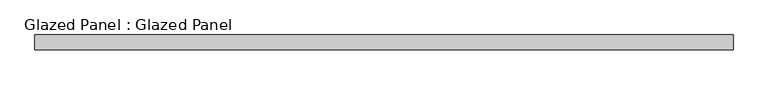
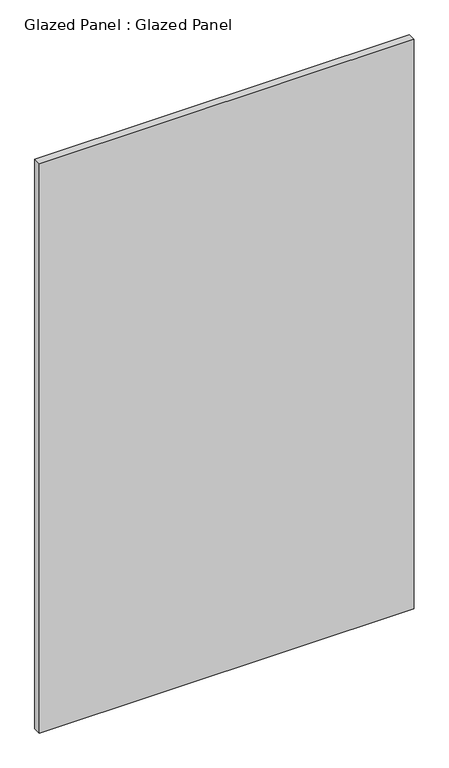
"""IFC4 building model written with IfcOpenShell, lengths in millimetres: plate geometry, Glazed Panel : Glazed Panel."""

from ifc_helpers import new_model, si_unit, origin, origin_with_axes, place, context, project, spatial, polyline, outline, extrude, source, transform, mapped, element, save


def glazed_panel_glazed_panel_caef8a16(model_context):
    return source(origin(), model_context, "Body", "SweptSolid", [
        extrude(outline(polyline([(600.3827129, 38.1), (-600.3827129, 38.1), (-600.3827129, 63.5), (600.3827129, 63.5), (600.3827129, 38.1)])), origin_with_axes(), (0.0, 0.0, 1.0), 1929.2099287),
    ])


if __name__ == "__main__":
    model = new_model("IFC4")
    model_context = context("Model", 3, world=origin())
    ifc_project = project(units=[si_unit("LENGTHUNIT", "METRE", prefix="MILLI")], contexts=[model_context])
    site = spatial("IfcSite", under=ifc_project)
    building = spatial("IfcBuilding", under=site)
    placement = place(None, origin())
    glazed_panel_glazed_panel_shape = glazed_panel_glazed_panel_caef8a16(model_context)
    element("IfcPlate", 1, ObjectType="Glazed Panel : Glazed Panel", at=placement, inside=building, context=model_context, shape_type="MappedRepresentation", body=[
        mapped(glazed_panel_glazed_panel_shape, transform((0.0, 0.0, 0.0), x_axis=(1.0, 0.0, 0.0), y_axis=(0.0, 1.0, 0.0), z_axis=(0.0, 0.0, 1.0))),
    ])
    save(model, "model.ifc")
